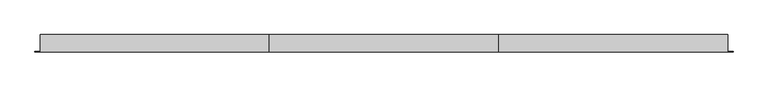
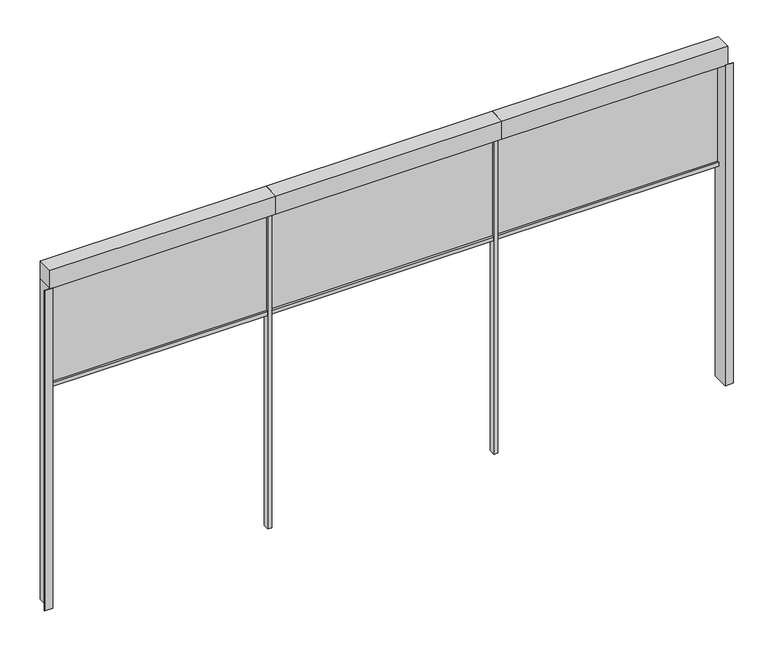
"""IFC4 building model written with IfcOpenShell, lengths in millimetres: proxy geometry, Renson_Fixscreen_Minimal_IM7B_With_CF : Recessed - Front of the window - Medium-CF - Access downwards - Fabric away from the window."""

from ifc_helpers import new_model, si_unit, frame, origin, place, context, project, spatial, polyline, outline, extrude, source, transform, mapped, element, save


def generic_models_ba440e1d(model_context):
    return source(origin(), model_context, "Body", "SweptSolid", [
        extrude(outline(polyline([(-1874.95, 49.0), (-1874.95, 52.0), (82.75, 52.0), (82.75, 49.0), (-1874.95, 49.0)])), frame((0.0, 0.0, 2812.5006852), z_axis=(0.0, 0.0, 1.0), x_axis=(1.0, 0.0, 0.0)), (0.0, 0.0, 1.0), 987.4993148),
        extrude(outline(polyline([(119.35, 49.0), (119.35, 52.0), (2082.75, 52.0), (2082.75, 49.0), (119.35, 49.0)])), frame((0.0, 0.0, 2812.5006852), z_axis=(0.0, 0.0, 1.0), x_axis=(1.0, 0.0, 0.0)), (0.0, 0.0, 1.0), 987.4993148),
        extrude(outline(polyline([(70.95, 2800.0), (30.45, 2800.0), (30.45, 2834.1156799), (47.85, 2835.0275753), (47.85, 2812.5006852), (53.55, 2812.5006852), (53.55, 2835.0275753), (70.95, 2834.1156799), (70.95, 2800.0)])), frame((-1874.95, 0.0, 0.0), z_axis=(1.0, 0.0, 0.0), x_axis=(0.0, 1.0, 0.0)), (0.0, 0.0, 1.0), 1957.7),
        extrude(outline(polyline([(70.95, 2800.0), (30.45, 2800.0), (30.45, 2834.1156799), (47.85, 2835.0275753), (47.85, 2812.5006852), (53.55, 2812.5006852), (53.55, 2835.0275753), (70.95, 2834.1156799), (70.95, 2800.0)])), frame((119.35, 0.0, 0.0), z_axis=(1.0, 0.0, 0.0), x_axis=(0.0, 1.0, 0.0)), (0.0, 0.0, 1.0), 1963.4),
        extrude(outline(polyline([(70.9955279, 2800.0), (30.4955279, 2800.0), (30.4955279, 2834.1156799), (47.8955279, 2835.0275753), (47.8955279, 2812.5006852), (53.5955279, 2812.5006852), (53.5955279, 2835.0275753), (70.9955279, 2834.1156799), (70.9955279, 2800.0)])), frame((2119.3, 0.0, 0.0), z_axis=(1.0, 0.0, 0.0), x_axis=(0.0, 1.0, 0.0)), (0.0, 0.0, 1.0), 1957.7),
        extrude(outline(polyline([(2119.3, 49.0), (2119.3, 52.0), (4077.0, 52.0), (4077.0, 49.0), (2119.3, 49.0)])), frame((0.0, 0.0, 2812.5006852), z_axis=(0.0, 0.0, 1.0), x_axis=(1.0, 0.0, 0.0)), (0.0, 0.0, 1.0), 987.4993148),
        extrude(outline(polyline([(-1875.0, -65.0), (-1945.5, -65.0), (-1945.5, -61.0), (-1899.0, -61.0), (-1899.0, 85.0), (-1875.0, 85.0), (-1875.0, -65.0)])), frame((0.0, 0.0, 800.0), z_axis=(0.0, 0.0, 1.0), x_axis=(1.0, 0.0, 0.0)), (0.0, 0.0, 1.0), 3000.0),
        extrude(outline(polyline([(4077.0, -65.0), (4077.0, 85.0), (4101.0, 85.0), (4101.0, -61.0), (4147.5, -61.0), (4147.5, -65.0), (4077.0, -65.0)])), frame((0.0, 0.0, 800.0), z_axis=(0.0, 0.0, 1.0), x_axis=(1.0, 0.0, 0.0)), (0.0, 0.0, 1.0), 3000.0),
        extrude(outline(polyline([(2101.0, -65.0), (2101.0, 85.0), (4101.0, 85.0), (4101.0, -65.0), (2101.0, -65.0)])), frame((0.0, 0.0, 3800.0), z_axis=(0.0, 0.0, 1.0), x_axis=(1.0, 0.0, 0.0)), (0.0, 0.0, 1.0), 170.0),
        extrude(outline(polyline([(101.0, -65.0), (101.0, 85.0), (2101.0, 85.0), (2101.0, -65.0), (101.0, -65.0)])), frame((0.0, 0.0, 3800.0), z_axis=(0.0, 0.0, 1.0), x_axis=(1.0, 0.0, 0.0)), (0.0, 0.0, 1.0), 170.0),
        extrude(outline(polyline([(-1899.0, -65.0), (-1899.0, 85.0), (101.0, 85.0), (101.0, -65.0), (-1899.0, -65.0)])), frame((0.0, 0.0, 3800.0), z_axis=(0.0, 0.0, 1.0), x_axis=(1.0, 0.0, 0.0)), (0.0, 0.0, 1.0), 170.0),
        extrude(outline(polyline([(119.25, 85.0), (119.25, 28.75), (82.75, 28.75), (82.75, 85.0), (119.25, 85.0)])), frame((0.0, 0.0, 800.0), z_axis=(0.0, 0.0, 1.0), x_axis=(1.0, 0.0, 0.0)), (0.0, 0.0, 1.0), 3000.0),
        extrude(outline(polyline([(2119.25, 85.0), (2119.25, 28.75), (2082.75, 28.75), (2082.75, 85.0), (2119.25, 85.0)])), frame((0.0, 0.0, 800.0), z_axis=(0.0, 0.0, 1.0), x_axis=(1.0, 0.0, 0.0)), (0.0, 0.0, 1.0), 3000.0),
    ])


if __name__ == "__main__":
    model = new_model("IFC4")
    model_context = context("Model", 3, world=origin())
    ifc_project = project(units=[si_unit("LENGTHUNIT", "METRE", prefix="MILLI")], contexts=[model_context])
    site = spatial("IfcSite", under=ifc_project)
    building = spatial("IfcBuilding", under=site)
    placement = place(None, origin())
    generic_models_shape = generic_models_ba440e1d(model_context)
    element("IfcBuildingElementProxy", 1, Name="Renson_Fixscreen_Minimal_IM7B_With_CF : Recessed - Front of the window - Medium-CF - Access downwards - Fabric away from the window", ObjectType="Renson_Fixscreen_Minimal_IM7B_With_CF : Recessed - Front of the window - Medium-CF - Access downwards - Fabric away from the window", at=placement, inside=building, context=model_context, shape_type="MappedRepresentation", body=[
        mapped(generic_models_shape, transform((0.0, 0.0, 0.0), x_axis=(1.0, 0.0, 0.0), y_axis=(0.0, 1.0, 0.0), z_axis=(0.0, 0.0, 1.0))),
    ])
    save(model, "model.ifc")
